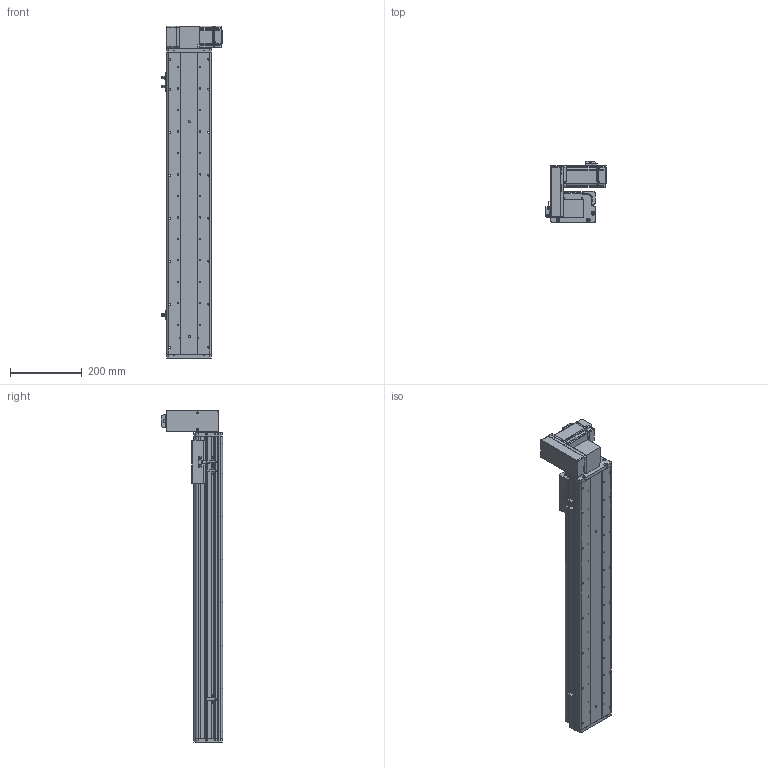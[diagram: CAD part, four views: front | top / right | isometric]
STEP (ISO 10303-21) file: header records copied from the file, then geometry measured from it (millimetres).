
FILE_DESCRIPTION (( 'STEP AP214' ), '1' );
FILE_NAME ('KSD125B-S650-MRU-CM.STEP', '2017-10-21T07:31:05', ( '微软用户' ), ( '微软中国' ), 'SwSTEP 2.0', 'SolidWorks 2014', '' );
FILE_SCHEMA (( 'AUTOMOTIVE_DESIGN' ));
Length unit declared in the file: millimetre
Products named in the file (17): KSD125模组同步带-防撞垫1; 100宽马达安装板同步带右; 前端板-125宽模组同步带; 125模组同步带-尾端板1; KSD125模组同步带-滑动座1; KSD125B-S650-MRU-CM; 悵誘欶奻狟殏; HTPA30S3M150_A_H6_a佪裝蚚; HTPA30S3M150_A_H6_a萇儂蚚; 100宽马达安装板连板上下折丝杆同步带; KSD125模组650行程同步带-防尘盖; 125模组650行程同步带-底板; MHMD042G1CA_2_03; KSD125模组同步带-防撞垫2; 覜茼え68遵圉猾敕; U倰嫖萇假蚾璃; U倰嫖萇EEㄜSX672
Assembly tree (20 placements, depth 2):
  KSD125B-S650-MRU-CM
    KSD125模组同步带-滑动座1
    125模组同步带-尾端板1
    前端板-125宽模组同步带
    100宽马达安装板同步带右
    KSD125模组同步带-防撞垫1
    U倰嫖萇EEㄜSX672  x3
    U倰嫖萇假蚾璃  x3
    覜茼え68遵圉猾敕
    KSD125模组同步带-防撞垫2
    MHMD042G1CA_2_03
    125模组650行程同步带-底板
    KSD125模组650行程同步带-防尘盖
    100宽马达安装板连板上下折丝杆同步带
    HTPA30S3M150_A_H6_a萇儂蚚
    HTPA30S3M150_A_H6_a佪裝蚚
    悵誘欶奻狟殏
Bounding box: 168.7 x 170.5 x 927 mm (x, y, z)
Volume: 2990022.9 mm3; surface area: 1027051.5 mm2
Topology: 19 solids, 22 shells, 2267 faces, 6565 edges, 4338 vertices
Faces by surface type: cylinder 1416, plane 724, cone 105, bspline 22
Entity records: 80459 total; most frequent: CARTESIAN_POINT 15915, DIRECTION 12514, ORIENTED_EDGE 11650, EDGE_CURVE 5903, AXIS2_PLACEMENT_3D 4833, VERTEX_POINT 3930, VECTOR 2848, LINE 2848
